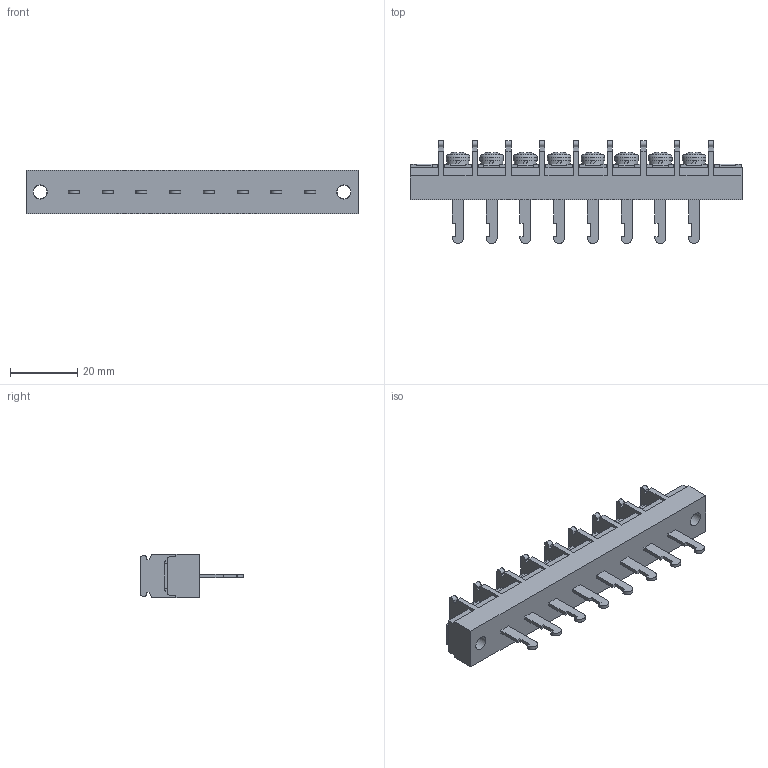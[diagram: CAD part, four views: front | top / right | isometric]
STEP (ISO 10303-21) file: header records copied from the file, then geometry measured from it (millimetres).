
FILE_DESCRIPTION(/* description */ ('Alibre Inc.'),/* implementation_level */ '2;1');
FILE_NAME(/* name */ 'export0',/* time_stamp */ '2015-10-17T19:14:38+09:00',/* author */ (''),/* organization */ (''),/* preprocessor_version */ 'ST-DEVELOPER v14',/* originating_system */ 'Alibre',/* authorisation */ '');
FILE_SCHEMA (('CONFIG_CONTROL_DESIGN'));
Length unit declared in the file: centimetre
Products named in the file (1): ID_1
Bounding box: 98.4 x 30.5 x 13 mm (x, y, z)
Volume: 14690 mm3; surface area: 9037.2 mm2
Topology: 1 solids, 17 shells, 976 faces, 2660 edges, 1766 vertices
Faces by surface type: plane 742, bspline 104, cylinder 74, cone 32, torus 16, sphere 8
Full cylindrical faces by diameter (mm): 4 x10, 4.2 x2, 6.5 x8, 7 x8
Entity records: 29689 total; most frequent: CARTESIAN_POINT 6487, ORIENTED_EDGE 5196, DIRECTION 3690, EDGE_CURVE 2598, VECTOR 1938, LINE 1938, VERTEX_POINT 1740, AXIS2_PLACEMENT_3D 1241
